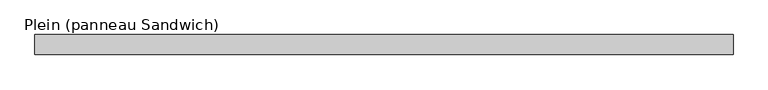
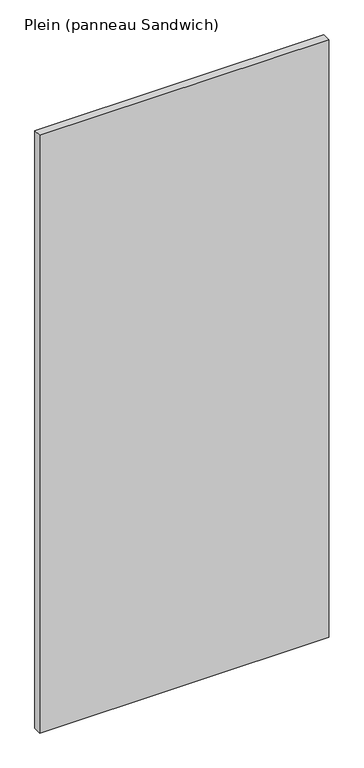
"""IFC4 building model written with IfcOpenShell, lengths in millimetres: plate geometry, Plein (panneau Sandwich)."""

from ifc_helpers import new_model, si_unit, origin, origin_with_axes, place, context, project, spatial, polyline, outline, extrude, source, transform, mapped, element, save


def plein_panneau_sandwich_06f963a3(model_context):
    return source(origin(), model_context, "Body", "SweptSolid", [
        extrude(outline(polyline([(-695.65625, -20.0), (-695.65625, 20.0), (695.65625, 20.0), (695.65625, -20.0), (-695.65625, -20.0)])), origin_with_axes(), (0.0, 0.0, 1.0), 3042.625),
    ])


if __name__ == "__main__":
    model = new_model("IFC4")
    model_context = context("Model", 3, world=origin())
    ifc_project = project(units=[si_unit("LENGTHUNIT", "METRE", prefix="MILLI")], contexts=[model_context])
    site = spatial("IfcSite", under=ifc_project)
    building = spatial("IfcBuilding", under=site)
    placement = place(None, origin())
    plein_panneau_sandwich_shape = plein_panneau_sandwich_06f963a3(model_context)
    element("IfcPlate", 1, ObjectType="Plein (panneau Sandwich)", at=placement, inside=building, context=model_context, shape_type="MappedRepresentation", body=[
        mapped(plein_panneau_sandwich_shape, transform((0.0, 0.0, 0.0), x_axis=(1.0, 0.0, 0.0), y_axis=(0.0, 1.0, 0.0), z_axis=(0.0, 0.0, 1.0))),
    ])
    save(model, "model.ifc")
